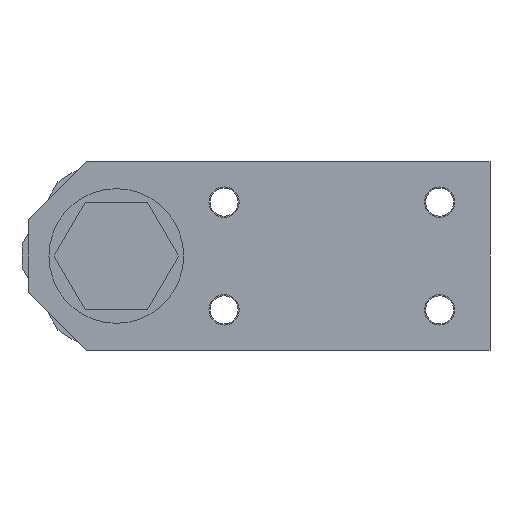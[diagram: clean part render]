
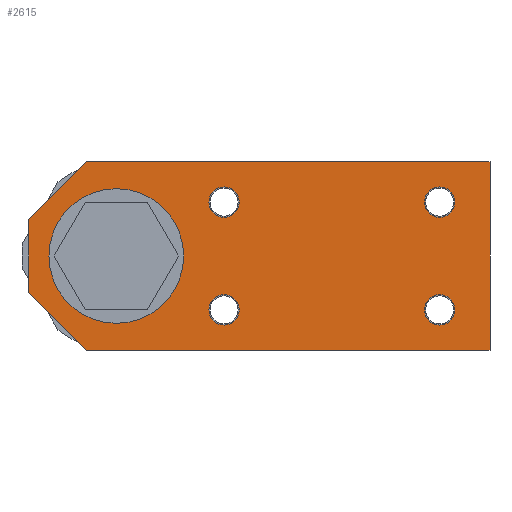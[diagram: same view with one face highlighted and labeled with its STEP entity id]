
A CAD part, left-side view. The second image highlights one B-rep face of the part: STEP entity #2615.
In plain terms, the highlighted planar face has unit normal (-1, 0, 0).
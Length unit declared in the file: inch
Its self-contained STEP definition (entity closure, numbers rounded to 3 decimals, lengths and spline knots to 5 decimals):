
#2275=CARTESIAN_POINT('',(-3.3125,-1.,-0.5));
#2276=DIRECTION('',(1.,0.,0.));
#2277=DIRECTION('',(0.,-1.,0.));
#2278=AXIS2_PLACEMENT_3D('',#2275,#2276,#2277);
#2280=CARTESIAN_POINT('',(-3.3125,-1.,-0.5));
#2281=DIRECTION('',(1.,0.,0.));
#2282=DIRECTION('',(0.,1.,0.));
#2283=AXIS2_PLACEMENT_3D('',#2280,#2281,#2282);
#2285=CARTESIAN_POINT('',(-3.3125,-3.,-0.5));
#2286=DIRECTION('',(1.,0.,0.));
#2287=DIRECTION('',(0.,-1.,0.));
#2288=AXIS2_PLACEMENT_3D('',#2285,#2286,#2287);
#2290=CARTESIAN_POINT('',(-3.3125,-3.,-0.5));
#2291=DIRECTION('',(1.,0.,0.));
#2292=DIRECTION('',(0.,1.,0.));
#2293=AXIS2_PLACEMENT_3D('',#2290,#2291,#2292);
#2295=CARTESIAN_POINT('',(-3.3125,-3.,0.5));
#2296=DIRECTION('',(1.,0.,0.));
#2297=DIRECTION('',(0.,-1.,0.));
#2298=AXIS2_PLACEMENT_3D('',#2295,#2296,#2297);
#2300=CARTESIAN_POINT('',(-3.3125,-3.,0.5));
#2301=DIRECTION('',(1.,0.,0.));
#2302=DIRECTION('',(0.,1.,0.));
#2303=AXIS2_PLACEMENT_3D('',#2300,#2301,#2302);
#2305=CARTESIAN_POINT('',(-3.3125,-1.,0.5));
#2306=DIRECTION('',(1.,0.,0.));
#2307=DIRECTION('',(0.,-1.,0.));
#2308=AXIS2_PLACEMENT_3D('',#2305,#2306,#2307);
#2310=CARTESIAN_POINT('',(-3.3125,-1.,0.5));
#2311=DIRECTION('',(1.,0.,0.));
#2312=DIRECTION('',(0.,1.,0.));
#2313=AXIS2_PLACEMENT_3D('',#2310,#2311,#2312);
#2315=CARTESIAN_POINT('',(-3.3125,0.,0.));
#2316=DIRECTION('',(1.,0.,0.));
#2317=DIRECTION('',(0.,-1.,0.));
#2318=AXIS2_PLACEMENT_3D('',#2315,#2316,#2317);
#2320=CARTESIAN_POINT('',(-3.3125,0.,0.));
#2321=DIRECTION('',(1.,0.,0.));
#2322=DIRECTION('',(0.,1.,0.));
#2323=AXIS2_PLACEMENT_3D('',#2320,#2321,#2322);
#2325=DIRECTION('',(0.,-0.707,-0.707));
#2326=VECTOR('',#2325,0.76149);
#2327=CARTESIAN_POINT('',(-3.3125,0.8125,-0.33655));
#2328=LINE('',#2327,#2326);
#2329=DIRECTION('',(0.,0.707,-0.707));
#2330=VECTOR('',#2329,0.76149);
#2331=CARTESIAN_POINT('',(-3.3125,0.27405,0.875));
#2332=LINE('',#2331,#2330);
#2431=DIRECTION('',(0.,-1.,0.));
#2432=VECTOR('',#2431,3.74155);
#2433=CARTESIAN_POINT('',(-3.3125,0.27405,0.875));
#2434=LINE('',#2433,#2432);
#2451=DIRECTION('',(0.,0.,1.));
#2452=VECTOR('',#2451,0.6731);
#2453=CARTESIAN_POINT('',(-3.3125,0.8125,-0.33655));
#2454=LINE('',#2453,#2452);
#2463=DIRECTION('',(0.,1.,0.));
#2464=VECTOR('',#2463,3.74155);
#2465=CARTESIAN_POINT('',(-3.3125,-3.4675,-0.875));
#2466=LINE('',#2465,#2464);
#2471=DIRECTION('',(0.,0.,-1.));
#2472=VECTOR('',#2471,1.75);
#2473=CARTESIAN_POINT('',(-3.3125,-3.4675,0.875));
#2474=LINE('',#2473,#2472);
#2493=CARTESIAN_POINT('',(-3.3125,0.8125,-0.33655));
#2494=VERTEX_POINT('',#2493);
#2495=CARTESIAN_POINT('',(-3.3125,0.8125,0.33655));
#2496=VERTEX_POINT('',#2495);
#2499=CARTESIAN_POINT('',(-3.3125,0.27405,-0.875));
#2500=VERTEX_POINT('',#2499);
#2501=CARTESIAN_POINT('',(-3.3125,-3.4675,0.875));
#2502=CARTESIAN_POINT('',(-3.3125,-3.4675,-0.875));
#2503=VERTEX_POINT('',#2501);
#2504=VERTEX_POINT('',#2502);
#2505=CARTESIAN_POINT('',(-3.3125,0.27405,0.875));
#2506=VERTEX_POINT('',#2505);
#2511=CARTESIAN_POINT('',(-3.3125,-0.85938,-0.5));
#2513=VERTEX_POINT('',#2511);
#2515=CARTESIAN_POINT('',(-3.3125,-1.14063,-0.5));
#2517=VERTEX_POINT('',#2515);
#2519=CARTESIAN_POINT('',(-3.3125,-2.85938,-0.5));
#2521=VERTEX_POINT('',#2519);
#2523=CARTESIAN_POINT('',(-3.3125,-3.14063,-0.5));
#2525=VERTEX_POINT('',#2523);
#2527=CARTESIAN_POINT('',(-3.3125,-2.85938,0.5));
#2529=VERTEX_POINT('',#2527);
#2531=CARTESIAN_POINT('',(-3.3125,-3.14063,0.5));
#2533=VERTEX_POINT('',#2531);
#2535=CARTESIAN_POINT('',(-3.3125,-0.85938,0.5));
#2537=VERTEX_POINT('',#2535);
#2539=CARTESIAN_POINT('',(-3.3125,-1.14063,0.5));
#2541=VERTEX_POINT('',#2539);
#2544=CARTESIAN_POINT('',(-3.3125,-0.625,0.));
#2546=VERTEX_POINT('',#2544);
#2548=CARTESIAN_POINT('',(-3.3125,0.625,0.));
#2550=VERTEX_POINT('',#2548);
#2567=CARTESIAN_POINT('',(-3.3125,-1.59673,0.));
#2568=DIRECTION('',(1.,0.,0.));
#2569=DIRECTION('',(0.,-1.,0.));
#2570=AXIS2_PLACEMENT_3D('',#2567,#2568,#2569);
#2571=PLANE('',#2570);
#2573=ORIENTED_EDGE('',*,*,#2572,.T.);
#2575=ORIENTED_EDGE('',*,*,#2574,.T.);
#2577=ORIENTED_EDGE('',*,*,#2576,.F.);
#2579=ORIENTED_EDGE('',*,*,#2578,.T.);
#2581=ORIENTED_EDGE('',*,*,#2580,.F.);
#2583=ORIENTED_EDGE('',*,*,#2582,.T.);
#2584=EDGE_LOOP('',(#2573,#2575,#2577,#2579,#2581,#2583));
#2585=FACE_OUTER_BOUND('',#2584,.F.);
#2587=ORIENTED_EDGE('',*,*,#2586,.F.);
#2589=ORIENTED_EDGE('',*,*,#2588,.F.);
#2590=EDGE_LOOP('',(#2587,#2589));
#2591=FACE_BOUND('',#2590,.F.);
#2593=ORIENTED_EDGE('',*,*,#2592,.F.);
#2595=ORIENTED_EDGE('',*,*,#2594,.F.);
#2596=EDGE_LOOP('',(#2593,#2595));
#2597=FACE_BOUND('',#2596,.F.);
#2599=ORIENTED_EDGE('',*,*,#2598,.F.);
#2601=ORIENTED_EDGE('',*,*,#2600,.F.);
#2602=EDGE_LOOP('',(#2599,#2601));
#2603=FACE_BOUND('',#2602,.F.);
#2605=ORIENTED_EDGE('',*,*,#2604,.F.);
#2607=ORIENTED_EDGE('',*,*,#2606,.F.);
#2608=EDGE_LOOP('',(#2605,#2607));
#2609=FACE_BOUND('',#2608,.F.);
#2610=ORIENTED_EDGE('',*,*,#2556,.F.);
#2612=ORIENTED_EDGE('',*,*,#2611,.F.);
#2613=EDGE_LOOP('',(#2610,#2612));
#2614=FACE_BOUND('',#2613,.F.);
#2279=CIRCLE('',#2278,0.14063);
#2284=CIRCLE('',#2283,0.14063);
#2289=CIRCLE('',#2288,0.14063);
#2294=CIRCLE('',#2293,0.14063);
#2299=CIRCLE('',#2298,0.14063);
#2304=CIRCLE('',#2303,0.14063);
#2309=CIRCLE('',#2308,0.14063);
#2314=CIRCLE('',#2313,0.14063);
#2319=CIRCLE('',#2318,0.625);
#2324=CIRCLE('',#2323,0.625);
#2556=EDGE_CURVE('',#2517,#2513,#2279,.T.);
#2572=EDGE_CURVE('',#2503,#2504,#2474,.T.);
#2574=EDGE_CURVE('',#2504,#2500,#2466,.T.);
#2576=EDGE_CURVE('',#2494,#2500,#2328,.T.);
#2578=EDGE_CURVE('',#2494,#2496,#2454,.T.);
#2580=EDGE_CURVE('',#2506,#2496,#2332,.T.);
#2582=EDGE_CURVE('',#2506,#2503,#2434,.T.);
#2586=EDGE_CURVE('',#2525,#2521,#2289,.T.);
#2588=EDGE_CURVE('',#2521,#2525,#2294,.T.);
#2592=EDGE_CURVE('',#2533,#2529,#2299,.T.);
#2594=EDGE_CURVE('',#2529,#2533,#2304,.T.);
#2598=EDGE_CURVE('',#2541,#2537,#2309,.T.);
#2600=EDGE_CURVE('',#2537,#2541,#2314,.T.);
#2604=EDGE_CURVE('',#2546,#2550,#2319,.T.);
#2606=EDGE_CURVE('',#2550,#2546,#2324,.T.);
#2611=EDGE_CURVE('',#2513,#2517,#2284,.T.);
#2615=ADVANCED_FACE('',(#2585,#2591,#2597,#2603,#2609,#2614),#2571,.F.);
